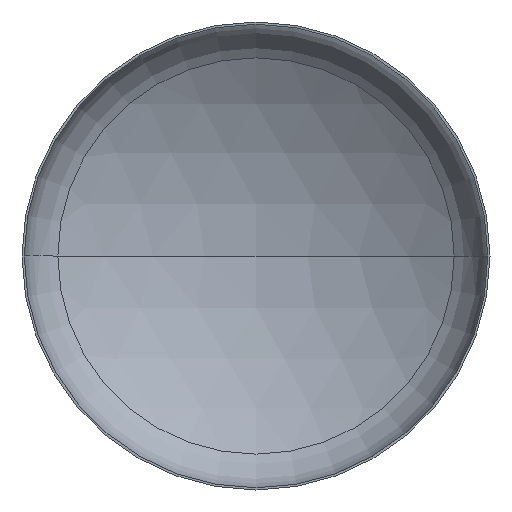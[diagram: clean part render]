
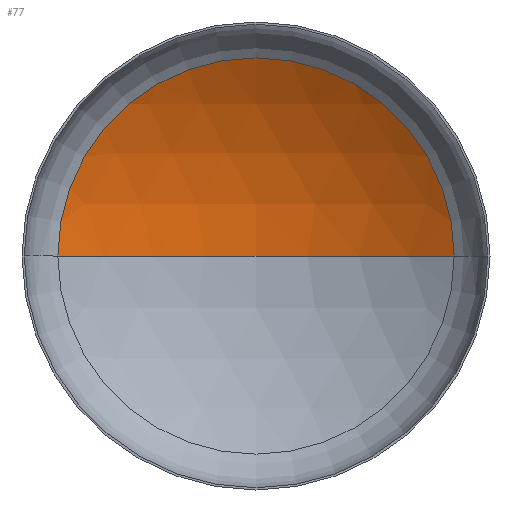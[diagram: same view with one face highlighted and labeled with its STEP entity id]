
A CAD part, front view. The second image highlights one B-rep face of the part: STEP entity #77.
In plain terms, the highlighted spherical face has radius 1520 mm.
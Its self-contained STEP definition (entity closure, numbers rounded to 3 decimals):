
#1 = AXIS2_PLACEMENT_3D ( 'NONE', #15, #249, #395 ) ;
#15 = CARTESIAN_POINT ( 'NONE',  ( 0., 276.052, 0. ) ) ;
#31 = DIRECTION ( 'NONE',  ( -1., 0., 0. ) ) ;
#34 = ORIENTED_EDGE ( 'NONE', *, *, #323, .T. ) ;
#37 = AXIS2_PLACEMENT_3D ( 'NONE', #360, #119, #320 ) ;
#77 = ADVANCED_FACE ( 'NONE', ( #319 ), #396, .F. ) ;
#87 = EDGE_LOOP ( 'NONE', ( #253, #231, #34 ) ) ;
#88 = CARTESIAN_POINT ( 'NONE',  ( 804.488, 276.052, 0. ) ) ;
#103 = VERTEX_POINT ( 'NONE', #118 ) ;
#118 = CARTESIAN_POINT ( 'NONE',  ( 0., 506.401, 0. ) ) ;
#119 = DIRECTION ( 'NONE',  ( 0., 0., -1. ) ) ;
#136 = CARTESIAN_POINT ( 'NONE',  ( 0., -1013.599, 0. ) ) ;
#153 = VERTEX_POINT ( 'NONE', #88 ) ;
#167 = CIRCLE ( 'NONE', #250, 1520. ) ;
#174 = CIRCLE ( 'NONE', #225, 1520. ) ;
#197 = VERTEX_POINT ( 'NONE', #389 ) ;
#207 = DIRECTION ( 'NONE',  ( 0., 0., 1. ) ) ;
#225 = AXIS2_PLACEMENT_3D ( 'NONE', #276, #207, #385 ) ;
#231 = ORIENTED_EDGE ( 'NONE', *, *, #369, .T. ) ;
#249 = DIRECTION ( 'NONE',  ( 0., -1., 0. ) ) ;
#250 = AXIS2_PLACEMENT_3D ( 'NONE', #136, #343, #31 ) ;
#253 = ORIENTED_EDGE ( 'NONE', *, *, #376, .F. ) ;
#260 = CIRCLE ( 'NONE', #1, 804.488 ) ;
#276 = CARTESIAN_POINT ( 'NONE',  ( 0., -1013.599, 0. ) ) ;
#319 = FACE_OUTER_BOUND ( 'NONE', #87, .T. ) ;
#320 = DIRECTION ( 'NONE',  ( -1., 0., 0. ) ) ;
#323 = EDGE_CURVE ( 'NONE', #153, #197, #260, .T. ) ;
#343 = DIRECTION ( 'NONE',  ( 0., 0., -1. ) ) ;
#360 = CARTESIAN_POINT ( 'NONE',  ( 0., -1013.599, 0. ) ) ;
#369 = EDGE_CURVE ( 'NONE', #103, #153, #167, .T. ) ;
#376 = EDGE_CURVE ( 'NONE', #103, #197, #174, .T. ) ;
#385 = DIRECTION ( 'NONE',  ( 1., 0., 0. ) ) ;
#389 = CARTESIAN_POINT ( 'NONE',  ( -804.488, 276.052, 0. ) ) ;
#395 = DIRECTION ( 'NONE',  ( 1., 0., 0. ) ) ;
#396 = SPHERICAL_SURFACE ( 'NONE', #37, 1520. ) ;
